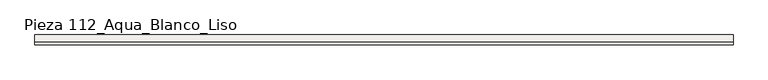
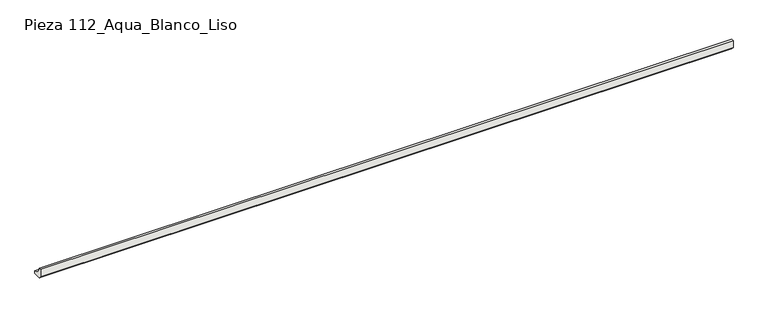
"""IFC4 building model written with IfcOpenShell, lengths in millimetres: slab geometry, ROSA GRES_112 : Pieza 112_Aqua_Blanco_Liso."""

from ifc_helpers import new_model, si_unit, point, frame, frame_2d, origin, place, context, project, spatial, polyline, circle_curve, trimmed, segment, composite_curve, outline, extrude, source, transform, mapped, element, save


def pieza_112_aqua_blanco_liso_dc4f69db(model_context):
    return source(origin(), model_context, "Body", "SweptSolid", [
        extrude(outline(composite_curve([segment(polyline([(-9.9734114, 8.7114978), (-9.9734114, 40.0), (0.0, 40.0)]), True, "CONTINUOUS"), segment(trimmed(circle_curve(frame_2d((30.0221432, 39.9955547)), 30.0221435), [point((0.0, 40.0))], [point((30.0265886, 9.9734114))], True, "CARTESIAN"), True, "CONTINUOUS"), segment(polyline([(30.0265886, 9.9734114), (30.0265886, 0.0), (-1.2619137, 0.0), (-9.9734114, 8.7114978)]), True, "CONTINUOUS")], self_intersect=False)), frame((0.0, 0.0, 0.0), z_axis=(1.0, 0.0, 0.0), x_axis=(0.0, 1.0, 0.0)), (0.0, 0.0, 1.0), 2780.0),
    ])


if __name__ == "__main__":
    model = new_model("IFC4")
    model_context = context("Model", 3, world=origin())
    ifc_project = project(units=[si_unit("LENGTHUNIT", "METRE", prefix="MILLI")], contexts=[model_context])
    site = spatial("IfcSite", under=ifc_project)
    building = spatial("IfcBuilding", under=site)
    placement = place(None, origin())
    pieza_112_aqua_blanco_liso_shape = pieza_112_aqua_blanco_liso_dc4f69db(model_context)
    element("IfcSlab", 1, ObjectType="ROSA GRES_112 : Pieza 112_Aqua_Blanco_Liso", at=placement, inside=building, context=model_context, shape_type="MappedRepresentation", body=[
        mapped(pieza_112_aqua_blanco_liso_shape, transform((0.0, 0.0, 0.0), x_axis=(1.0, 0.0, 0.0), y_axis=(0.0, 1.0, 0.0), z_axis=(0.0, 0.0, 1.0))),
    ])
    save(model, "model.ifc")
